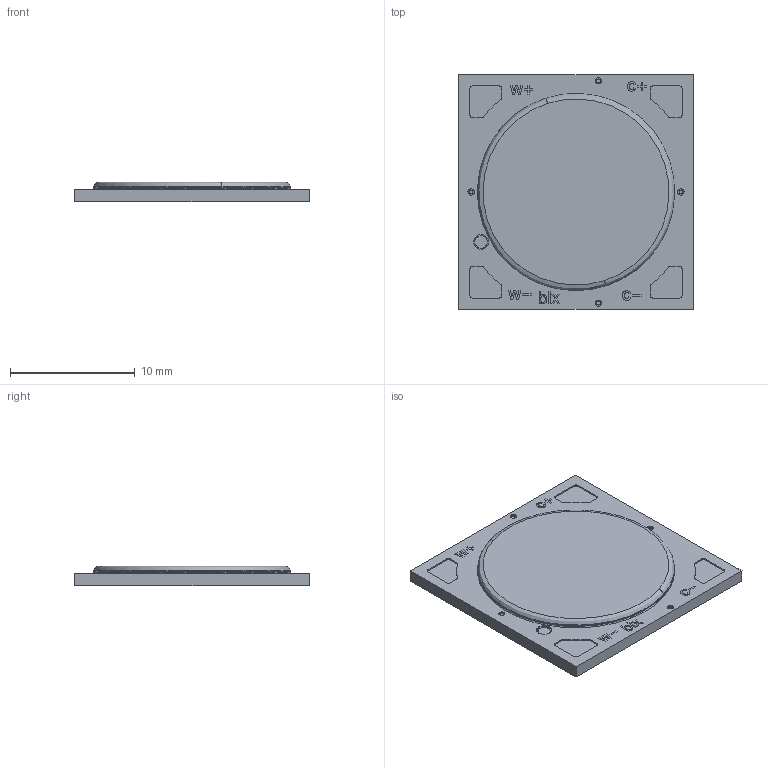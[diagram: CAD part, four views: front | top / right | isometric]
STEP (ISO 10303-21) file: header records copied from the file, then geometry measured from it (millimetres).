
FILE_DESCRIPTION (( 'STEP AP214' ), '1' );
FILE_NAME ('NTW13-G3 Assembly.STEP', '2024-12-27T05:19:15', ( '' ), ( '' ), 'SwSTEP 2.0', 'SolidWorks 2018', '' );
FILE_SCHEMA (( 'AUTOMOTIVE_DESIGN' ));
Length unit declared in the file: millimetre
Products named in the file (1): NTW13-G3 Assembly
Bounding box: 18.8 x 18.8 x 1.6 mm (x, y, z)
Volume: 466.4 mm3; surface area: 808.2 mm2
Topology: 1 solids, 1 shells, 297 faces, 800 edges, 532 vertices
Faces by surface type: plane 242, cylinder 44, torus 6, bspline 5
Entity records: 12544 total; most frequent: CARTESIAN_POINT 1727, ORIENTED_EDGE 1600, DIRECTION 1474, EDGE_CURVE 800, VECTOR 676, LINE 676, VERTEX_POINT 532, AXIS2_PLACEMENT_3D 399
